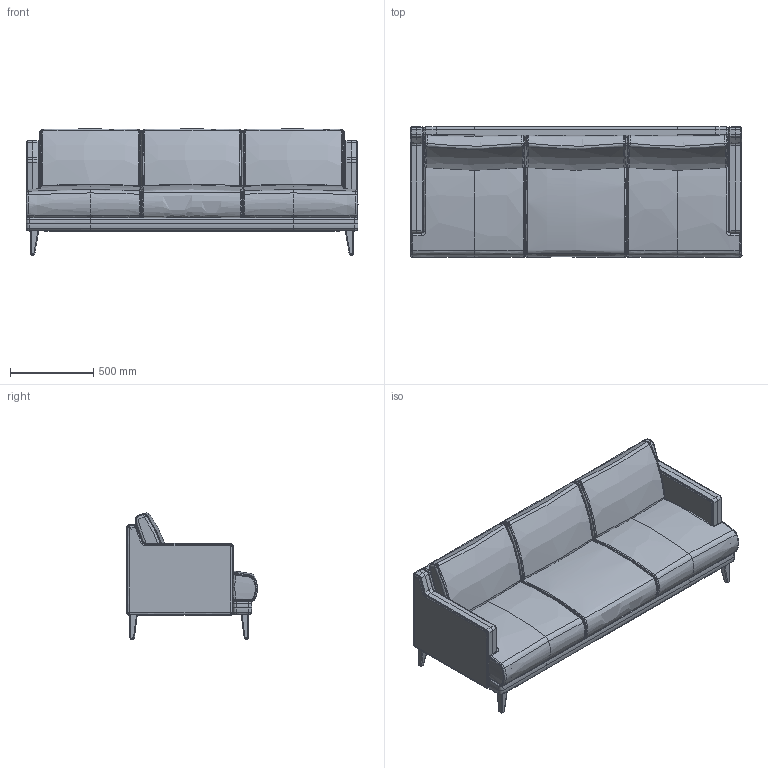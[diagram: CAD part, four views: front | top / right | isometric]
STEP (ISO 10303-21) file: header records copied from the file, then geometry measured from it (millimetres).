
FILE_DESCRIPTION(/* description */ (''),/* implementation_level */ '2;1');
FILE_NAME(/* name */ 'CC Resimercial Sofa.step',/* time_stamp */ '2025-08-19T08:42:00-07:00',/* author */ (''),/* organization */ (''),/* preprocessor_version */ 'ST-DEVELOPER v20.1',/* originating_system */ 'Autodesk Translation Framework v14.10.0.0',/* authorisation */ '');
FILE_SCHEMA (('AUTOMOTIVE_DESIGN { 1 0 10303 214 3 1 1 }'));
Products named in the file (1): 1
Bounding box: 1993.9 x 785.77 x 757.64 mm (x, y, z)
Volume: 549151022.2 mm3; surface area: 15560647.8 mm2
Topology: 34 solids, 40 shells, 1024 faces, 2453 edges, 1483 vertices
Faces by surface type: bspline 824, plane 93, cylinder 71, sphere 32, torus 4
Full cylindrical faces by diameter (mm): 16.51 x4
Entity records: 75452 total; most frequent: CARTESIAN_POINT 56822, ORIENTED_EDGE 4890, EDGE_CURVE 2445, DIRECTION 2178, VERTEX_POINT 1479, B_SPLINE_CURVE_WITH_KNOTS 1331, FACE_OUTER_BOUND 1016, EDGE_LOOP 1016
